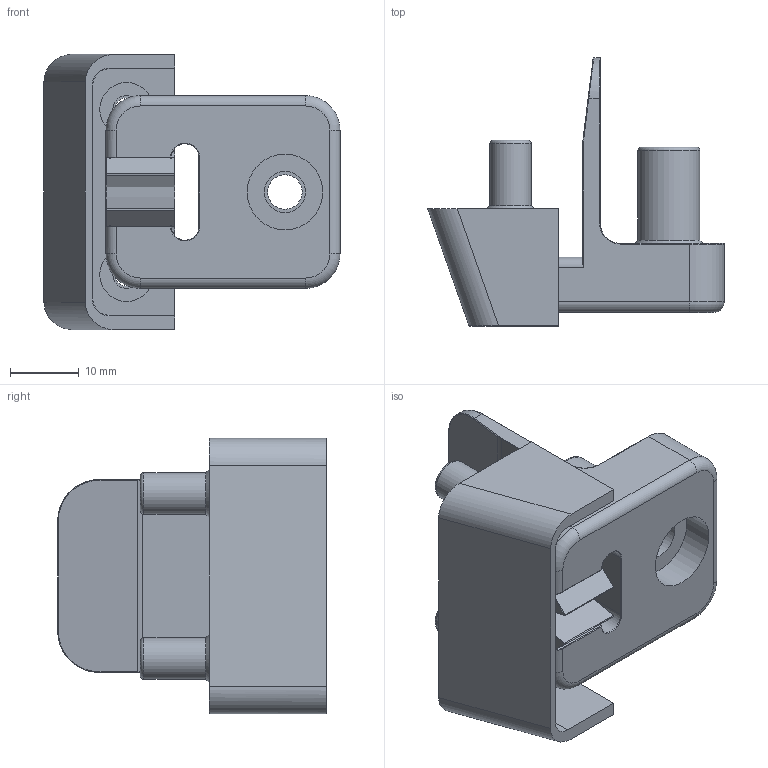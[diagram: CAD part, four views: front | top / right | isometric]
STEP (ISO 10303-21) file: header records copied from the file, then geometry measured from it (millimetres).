
FILE_DESCRIPTION (( 'STEP AP214' ), '1' );
FILE_NAME ('L19166 ens.step', '2024-12-03T16:24:38', ( '' ), ( '' ), 'SwSTEP 2.0', 'SolidWorks 2023', '' );
FILE_SCHEMA (( 'AUTOMOTIVE_DESIGN' ));
Length unit declared in the file: millimetre
Products named in the file (5): F10164; F10166; L19166-fixe; L19166 ens; L19166-mobile
Assembly tree (5 placements, depth 2):
  L19166 ens
    L19166-fixe
    L19166-mobile
    F10166
    F10164  x2
Bounding box: 43 x 39 x 40 mm (x, y, z)
Volume: 15391.5 mm3; surface area: 10184.6 mm2
Topology: 5 solids, 5 shells, 200 faces, 462 edges, 266 vertices
Faces by surface type: cylinder 91, plane 55, torus 27, sphere 14, bspline 10, cone 3
Full cylindrical faces by diameter (mm): 3.3 x2, 4 x2, 5 x3, 6 x3, 7.5 x1, 7.8 x2, 9 x1, 11 x1
Entity records: 5563 total; most frequent: CARTESIAN_POINT 1187, DIRECTION 955, ORIENTED_EDGE 830, EDGE_CURVE 415, AXIS2_PLACEMENT_3D 382, VERTEX_POINT 250, EDGE_LOOP 221, FACE_OUTER_BOUND 206
